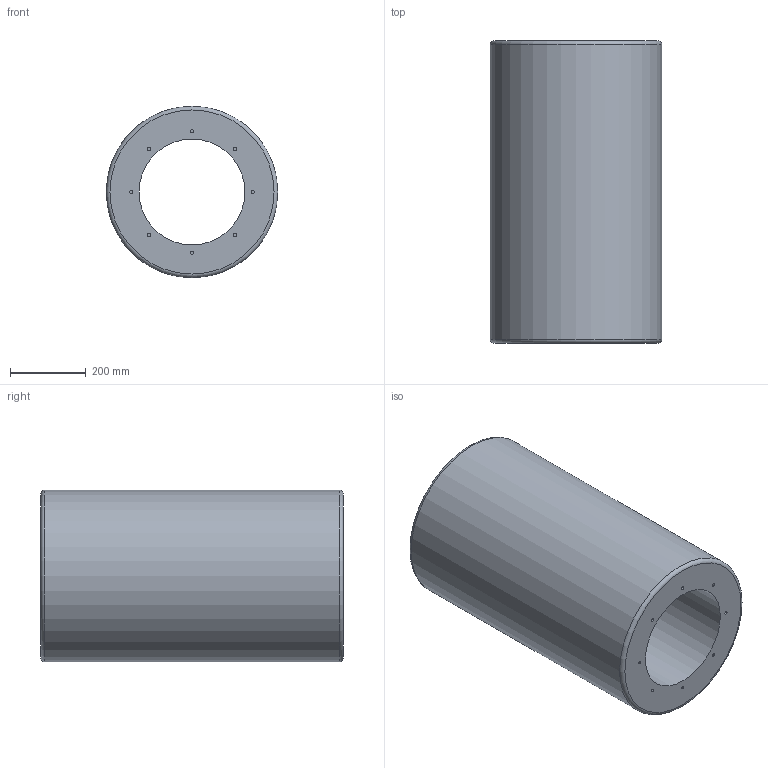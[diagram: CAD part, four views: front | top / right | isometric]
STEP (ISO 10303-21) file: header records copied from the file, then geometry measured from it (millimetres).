
FILE_DESCRIPTION(/* description */ (''),/* implementation_level */ '2;1');
FILE_NAME(/* name */ 'Z:\Output\RSD_280-800-08741-002.stp',/* time_stamp */ '2017-09-20T12:03:56+02:00',/* author */ ('Engineering1'),/* organization */ (''),/* preprocessor_version */ 'ST-DEVELOPER v16.5',/* originating_system */ 'Autodesk Inventor 2017',/* authorisation */ '');
FILE_SCHEMA (('AUTOMOTIVE_DESIGN { 1 0 10303 214 3 1 1 }'));
Length unit declared in the file: millimetre
Products named in the file (1): RSD-1
Bounding box: 454 x 800 x 454 mm (x, y, z)
Volume: 80177672.8 mm3; surface area: 2037048 mm2
Topology: 1 solids, 1 shells, 38 faces, 58 edges, 38 vertices
Faces by surface type: cylinder 18, plane 18, torus 2
Full cylindrical faces by diameter (mm): 8 x16, 280 x1, 454 x1
Entity records: 806 total; most frequent: DIRECTION 154, CARTESIAN_POINT 115, AXIS2_PLACEMENT_3D 77, EDGE_LOOP 76, ORIENTED_EDGE 76, FACE_BOUND 38, FACE_OUTER_BOUND 38, CIRCLE 38
